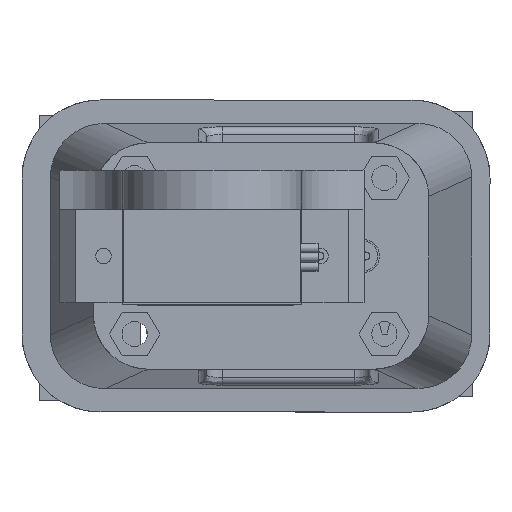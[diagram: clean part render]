
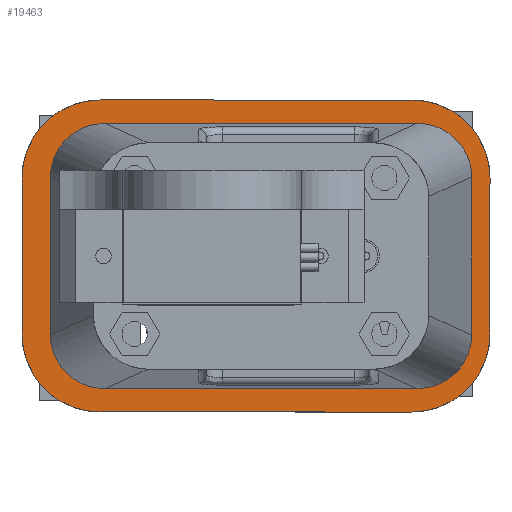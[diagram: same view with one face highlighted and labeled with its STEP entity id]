
A CAD part, front view. The second image highlights one B-rep face of the part: STEP entity #19463.
In plain terms, the highlighted planar face has unit normal (0, -1, 0).
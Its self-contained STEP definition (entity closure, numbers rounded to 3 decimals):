
#394=FACE_BOUND('',#2569,.T.);
#395=FACE_BOUND('',#2570,.T.);
#396=FACE_BOUND('',#2571,.T.);
#397=FACE_BOUND('',#2572,.T.);
#398=FACE_BOUND('',#2573,.T.);
#941=PLANE('',#20889);
#1585=FACE_OUTER_BOUND('',#2568,.T.);
#2568=EDGE_LOOP('',(#13549,#13550,#13551,#13552,#13553,#13554,#13555,#13556));
#2569=EDGE_LOOP('',(#13557));
#2570=EDGE_LOOP('',(#13558));
#2571=EDGE_LOOP('',(#13559));
#2572=EDGE_LOOP('',(#13560));
#2573=EDGE_LOOP('',(#13561));
#3692=LINE('',#27594,#5643);
#3729=LINE('',#27909,#5680);
#3769=LINE('',#28032,#5720);
#3770=LINE('',#28037,#5721);
#5643=VECTOR('',#22431,10.);
#5680=VECTOR('',#22606,10.);
#5720=VECTOR('',#22748,10.);
#5721=VECTOR('',#22753,10.);
#7590=CIRCLE('',#20796,11.5);
#7634=CIRCLE('',#20876,1.6);
#7636=CIRCLE('',#20880,1.6);
#7638=CIRCLE('',#20884,1.6);
#7640=CIRCLE('',#20888,1.6);
#7641=CIRCLE('',#20890,10.);
#7642=CIRCLE('',#20891,10.);
#7643=CIRCLE('',#20892,10.);
#7644=CIRCLE('',#20893,10.);
#8195=VERTEX_POINT('',#27591);
#8196=VERTEX_POINT('',#27593);
#8219=VERTEX_POINT('',#27692);
#8270=VERTEX_POINT('',#27906);
#8271=VERTEX_POINT('',#27908);
#8295=VERTEX_POINT('',#28004);
#8297=VERTEX_POINT('',#28011);
#8299=VERTEX_POINT('',#28018);
#8301=VERTEX_POINT('',#28025);
#8302=VERTEX_POINT('',#28029);
#8303=VERTEX_POINT('',#28031);
#8304=VERTEX_POINT('',#28034);
#8305=VERTEX_POINT('',#28036);
#10280=EDGE_CURVE('',#8196,#8195,#3692,.T.);
#10311=EDGE_CURVE('',#8219,#8219,#7590,.T.);
#10378=EDGE_CURVE('',#8271,#8270,#3729,.T.);
#10430=EDGE_CURVE('',#8295,#8295,#7634,.T.);
#10433=EDGE_CURVE('',#8297,#8297,#7636,.T.);
#10436=EDGE_CURVE('',#8299,#8299,#7638,.T.);
#10439=EDGE_CURVE('',#8301,#8301,#7640,.T.);
#10440=EDGE_CURVE('',#8270,#8302,#7641,.T.);
#10441=EDGE_CURVE('',#8302,#8303,#3769,.T.);
#10442=EDGE_CURVE('',#8303,#8196,#7642,.T.);
#10443=EDGE_CURVE('',#8195,#8304,#7643,.T.);
#10444=EDGE_CURVE('',#8304,#8305,#3770,.T.);
#10445=EDGE_CURVE('',#8305,#8271,#7644,.T.);
#13549=ORIENTED_EDGE('',*,*,#10378,.T.);
#13550=ORIENTED_EDGE('',*,*,#10440,.T.);
#13551=ORIENTED_EDGE('',*,*,#10441,.T.);
#13552=ORIENTED_EDGE('',*,*,#10442,.T.);
#13553=ORIENTED_EDGE('',*,*,#10280,.T.);
#13554=ORIENTED_EDGE('',*,*,#10443,.T.);
#13555=ORIENTED_EDGE('',*,*,#10444,.T.);
#13556=ORIENTED_EDGE('',*,*,#10445,.T.);
#13557=ORIENTED_EDGE('',*,*,#10430,.T.);
#13558=ORIENTED_EDGE('',*,*,#10433,.T.);
#13559=ORIENTED_EDGE('',*,*,#10436,.T.);
#13560=ORIENTED_EDGE('',*,*,#10439,.T.);
#13561=ORIENTED_EDGE('',*,*,#10311,.T.);
#19463=ADVANCED_FACE('',(#1585,#394,#395,#396,#397,#398),#941,.T.);
#20796=AXIS2_PLACEMENT_3D('',#27693,#22492,#22493);
#20876=AXIS2_PLACEMENT_3D('',#28006,#22715,#22716);
#20880=AXIS2_PLACEMENT_3D('',#28013,#22724,#22725);
#20884=AXIS2_PLACEMENT_3D('',#28020,#22733,#22734);
#20888=AXIS2_PLACEMENT_3D('',#28027,#22742,#22743);
#20889=AXIS2_PLACEMENT_3D('',#28028,#22744,#22745);
#20890=AXIS2_PLACEMENT_3D('',#28030,#22746,#22747);
#20891=AXIS2_PLACEMENT_3D('',#28033,#22749,#22750);
#20892=AXIS2_PLACEMENT_3D('',#28035,#22751,#22752);
#20893=AXIS2_PLACEMENT_3D('',#28038,#22754,#22755);
#22431=DIRECTION('',(0.,0.,1.));
#22492=DIRECTION('center_axis',(0.,1.,0.));
#22493=DIRECTION('ref_axis',(-1.,0.,0.));
#22606=DIRECTION('',(0.,0.,-1.));
#22715=DIRECTION('center_axis',(0.,1.,0.));
#22716=DIRECTION('ref_axis',(1.,0.,0.));
#22724=DIRECTION('center_axis',(0.,1.,0.));
#22725=DIRECTION('ref_axis',(1.,0.,0.));
#22733=DIRECTION('center_axis',(0.,1.,0.));
#22734=DIRECTION('ref_axis',(1.,0.,0.));
#22742=DIRECTION('center_axis',(0.,1.,0.));
#22743=DIRECTION('ref_axis',(1.,0.,0.));
#22744=DIRECTION('center_axis',(0.,-1.,0.));
#22745=DIRECTION('ref_axis',(0.,0.,-1.));
#22746=DIRECTION('center_axis',(0.,-1.,0.));
#22747=DIRECTION('ref_axis',(-1.,0.,0.));
#22748=DIRECTION('',(1.,0.,0.));
#22749=DIRECTION('center_axis',(0.,-1.,0.));
#22750=DIRECTION('ref_axis',(0.,0.,-1.));
#22751=DIRECTION('center_axis',(0.,-1.,0.));
#22752=DIRECTION('ref_axis',(1.,0.,0.));
#22753=DIRECTION('',(-1.,0.,0.));
#22754=DIRECTION('center_axis',(0.,-1.,0.));
#22755=DIRECTION('ref_axis',(0.,0.,1.));
#27591=CARTESIAN_POINT('',(60.,-3.,30.));
#27593=CARTESIAN_POINT('',(60.,-3.,10.));
#27594=CARTESIAN_POINT('',(60.,-3.,10.));
#27692=CARTESIAN_POINT('',(18.5,-3.,20.));
#27693=CARTESIAN_POINT('Origin',(30.,-3.,20.));
#27906=CARTESIAN_POINT('',(0.,-3.,10.));
#27908=CARTESIAN_POINT('',(0.,-3.,30.));
#27909=CARTESIAN_POINT('',(0.,-3.,30.));
#28004=CARTESIAN_POINT('',(12.851,-3.,10.));
#28006=CARTESIAN_POINT('Origin',(14.451,-3.,10.));
#28011=CARTESIAN_POINT('',(12.851,-3.,30.));
#28013=CARTESIAN_POINT('Origin',(14.451,-3.,30.));
#28018=CARTESIAN_POINT('',(44.851,-3.,10.));
#28020=CARTESIAN_POINT('Origin',(46.451,-3.,10.));
#28025=CARTESIAN_POINT('',(44.851,-3.,30.));
#28027=CARTESIAN_POINT('Origin',(46.451,-3.,30.));
#28028=CARTESIAN_POINT('Origin',(30.,-3.,20.));
#28029=CARTESIAN_POINT('',(10.,-3.,0.));
#28030=CARTESIAN_POINT('Origin',(10.,-3.,10.));
#28031=CARTESIAN_POINT('',(50.,-3.,0.));
#28032=CARTESIAN_POINT('',(10.,-3.,0.));
#28033=CARTESIAN_POINT('Origin',(50.,-3.,10.));
#28034=CARTESIAN_POINT('',(50.,-3.,40.));
#28035=CARTESIAN_POINT('Origin',(50.,-3.,30.));
#28036=CARTESIAN_POINT('',(10.,-3.,40.));
#28037=CARTESIAN_POINT('',(50.,-3.,40.));
#28038=CARTESIAN_POINT('Origin',(10.,-3.,30.));
